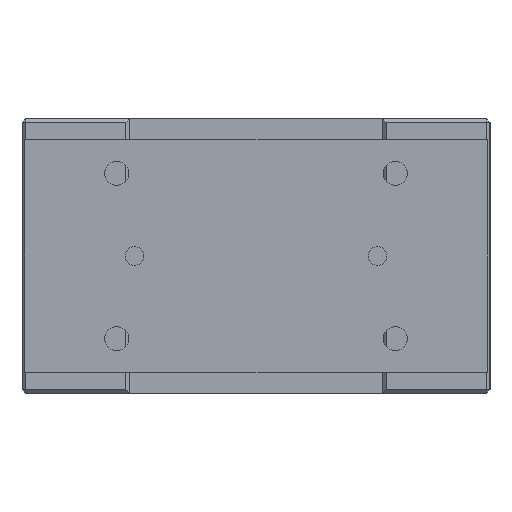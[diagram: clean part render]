
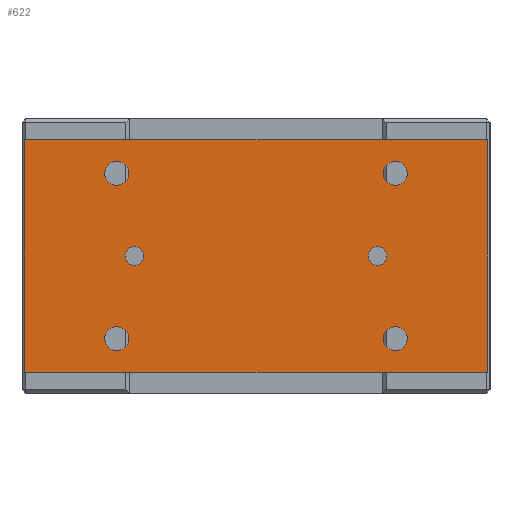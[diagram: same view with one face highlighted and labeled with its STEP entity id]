
A CAD part, left-side view. The second image highlights one B-rep face of the part: STEP entity #622.
In plain terms, the highlighted planar face has unit normal (-1, 0, 0).
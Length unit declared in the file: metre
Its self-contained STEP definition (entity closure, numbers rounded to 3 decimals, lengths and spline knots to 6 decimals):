
#622 = ADVANCED_FACE( '', ( #1402, #1403, #1404, #1405, #1406, #1407, #1408 ), #1409, .T. );
#1402 = FACE_BOUND( '', #2296, .T. );
#1403 = FACE_BOUND( '', #2297, .T. );
#1404 = FACE_BOUND( '', #2298, .T. );
#1405 = FACE_BOUND( '', #2299, .T. );
#1406 = FACE_BOUND( '', #2300, .T. );
#1407 = FACE_BOUND( '', #2301, .T. );
#1408 = FACE_OUTER_BOUND( '', #2302, .T. );
#1409 = PLANE( '', #2303 );
#2296 = EDGE_LOOP( '', ( #3789 ) );
#2297 = EDGE_LOOP( '', ( #3790 ) );
#2298 = EDGE_LOOP( '', ( #3791 ) );
#2299 = EDGE_LOOP( '', ( #3792 ) );
#2300 = EDGE_LOOP( '', ( #3793 ) );
#2301 = EDGE_LOOP( '', ( #3794 ) );
#2302 = EDGE_LOOP( '', ( #3795, #3796, #3797, #3798 ) );
#2303 = AXIS2_PLACEMENT_3D( '', #3799, #3800, #3801 );
#3789 = ORIENTED_EDGE( '', *, *, #4739, .F. );
#3790 = ORIENTED_EDGE( '', *, *, #4402, .T. );
#3791 = ORIENTED_EDGE( '', *, *, #4713, .F. );
#3792 = ORIENTED_EDGE( '', *, *, #4818, .F. );
#3793 = ORIENTED_EDGE( '', *, *, #4819, .F. );
#3794 = ORIENTED_EDGE( '', *, *, #4306, .F. );
#3795 = ORIENTED_EDGE( '', *, *, #4466, .T. );
#3796 = ORIENTED_EDGE( '', *, *, #4316, .T. );
#3797 = ORIENTED_EDGE( '', *, *, #4524, .T. );
#3798 = ORIENTED_EDGE( '', *, *, #4518, .T. );
#3799 = CARTESIAN_POINT( '', ( -0.143, -0.1245, -0.0115 ) );
#3800 = DIRECTION( '', ( -1., 0., 0. ) );
#3801 = DIRECTION( '', ( 0., 0., 1. ) );
#4306 = EDGE_CURVE( '', #4953, #4953, #4954, .T. );
#4316 = EDGE_CURVE( '', #4972, #4970, #4973, .T. );
#4402 = EDGE_CURVE( '', #5115, #5115, #5116, .T. );
#4466 = EDGE_CURVE( '', #5220, #4972, #5221, .T. );
#4518 = EDGE_CURVE( '', #5302, #5220, #5303, .T. );
#4524 = EDGE_CURVE( '', #4970, #5302, #5310, .T. );
#4713 = EDGE_CURVE( '', #5580, #5580, #5581, .T. );
#4739 = EDGE_CURVE( '', #5617, #5617, #5618, .T. );
#4818 = EDGE_CURVE( '', #5727, #5727, #5728, .T. );
#4819 = EDGE_CURVE( '', #5729, #5729, #5730, .T. );
#4953 = VERTEX_POINT( '', #5888 );
#4954 = CIRCLE( '', #5889, 0.0065 );
#4970 = VERTEX_POINT( '', #5910 );
#4972 = VERTEX_POINT( '', #5913 );
#4973 = LINE( '', #5914, #5915 );
#5115 = VERTEX_POINT( '', #6122 );
#5116 = CIRCLE( '', #6123, 0.005 );
#5220 = VERTEX_POINT( '', #6257 );
#5221 = LINE( '', #6258, #6259 );
#5302 = VERTEX_POINT( '', #6400 );
#5303 = LINE( '', #6401, #6402 );
#5310 = LINE( '', #6412, #6413 );
#5580 = VERTEX_POINT( '', #6854 );
#5581 = CIRCLE( '', #6855, 0.0065 );
#5617 = VERTEX_POINT( '', #6930 );
#5618 = CIRCLE( '', #6931, 0.005 );
#5727 = VERTEX_POINT( '', #7138 );
#5728 = CIRCLE( '', #7139, 0.0065 );
#5729 = VERTEX_POINT( '', #7140 );
#5730 = CIRCLE( '', #7141, 0.0065 );
#5888 = CARTESIAN_POINT( '', ( -0.143, 0.075, -0.023 ) );
#5889 = AXIS2_PLACEMENT_3D( '', #7321, #7322, #7323 );
#5910 = CARTESIAN_POINT( '', ( -0.143, 0.1245, -0.0115 ) );
#5913 = CARTESIAN_POINT( '', ( -0.143, -0.1245, -0.0115 ) );
#5914 = CARTESIAN_POINT( '', ( -0.143, -0.1245, -0.0115 ) );
#5915 = VECTOR( '', #7333, 1. );
#6122 = CARTESIAN_POINT( '', ( -0.143, 0.0705, -0.074 ) );
#6123 = AXIS2_PLACEMENT_3D( '', #7444, #7445, #7446 );
#6257 = CARTESIAN_POINT( '', ( -0.143, -0.1245, -0.1365 ) );
#6258 = CARTESIAN_POINT( '', ( -0.143, -0.1245, -0.1365 ) );
#6259 = VECTOR( '', #7525, 1. );
#6400 = CARTESIAN_POINT( '', ( -0.143, 0.1245, -0.1365 ) );
#6401 = CARTESIAN_POINT( '', ( -0.143, 0.1245, -0.1365 ) );
#6402 = VECTOR( '', #7577, 1. );
#6412 = CARTESIAN_POINT( '', ( -0.143, 0.1245, -0.0115 ) );
#6413 = VECTOR( '', #7581, 1. );
#6854 = CARTESIAN_POINT( '', ( -0.143, -0.075, -0.112 ) );
#6855 = AXIS2_PLACEMENT_3D( '', #7774, #7775, #7776 );
#6930 = CARTESIAN_POINT( '', ( -0.143, -0.0705, -0.074 ) );
#6931 = AXIS2_PLACEMENT_3D( '', #7807, #7808, #7809 );
#7138 = CARTESIAN_POINT( '', ( -0.143, 0.075, -0.112 ) );
#7139 = AXIS2_PLACEMENT_3D( '', #7875, #7876, #7877 );
#7140 = CARTESIAN_POINT( '', ( -0.143, -0.075, -0.023 ) );
#7141 = AXIS2_PLACEMENT_3D( '', #7878, #7879, #7880 );
#7321 = CARTESIAN_POINT( '', ( -0.143, 0.075, -0.0295 ) );
#7322 = DIRECTION( '', ( -1., 0., 0. ) );
#7323 = DIRECTION( '', ( 0., 0., 1. ) );
#7333 = DIRECTION( '', ( 0., 1., 0. ) );
#7444 = CARTESIAN_POINT( '', ( -0.143, 0.0655, -0.074 ) );
#7445 = DIRECTION( '', ( 1., 0., 0. ) );
#7446 = DIRECTION( '', ( 0., 1., 0. ) );
#7525 = DIRECTION( '', ( 0., 0., 1. ) );
#7577 = DIRECTION( '', ( 0., -1., 0. ) );
#7581 = DIRECTION( '', ( 0., 0., -1. ) );
#7774 = CARTESIAN_POINT( '', ( -0.143, -0.075, -0.1185 ) );
#7775 = DIRECTION( '', ( -1., 0., 0. ) );
#7776 = DIRECTION( '', ( 0., 0., 1. ) );
#7807 = CARTESIAN_POINT( '', ( -0.143, -0.0655, -0.074 ) );
#7808 = DIRECTION( '', ( -1., 0., 0. ) );
#7809 = DIRECTION( '', ( 0., -1., 0. ) );
#7875 = CARTESIAN_POINT( '', ( -0.143, 0.075, -0.1185 ) );
#7876 = DIRECTION( '', ( -1., 0., 0. ) );
#7877 = DIRECTION( '', ( 0., 0., 1. ) );
#7878 = CARTESIAN_POINT( '', ( -0.143, -0.075, -0.0295 ) );
#7879 = DIRECTION( '', ( -1., 0., 0. ) );
#7880 = DIRECTION( '', ( 0., 0., 1. ) );
